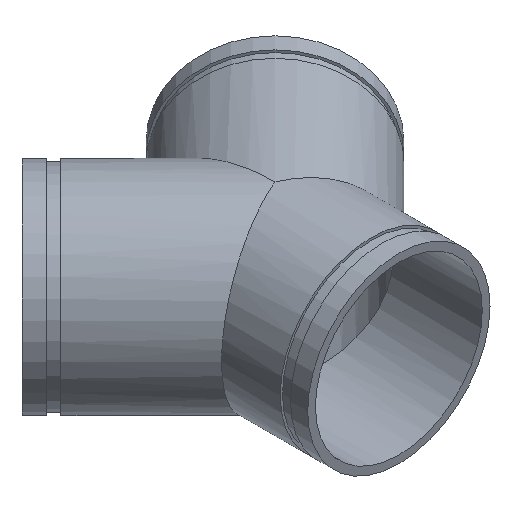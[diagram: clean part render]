
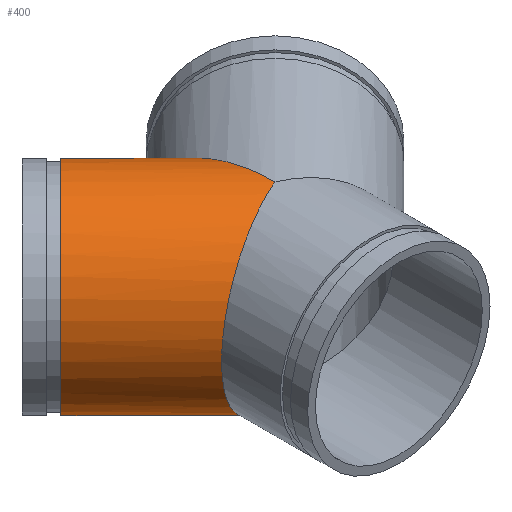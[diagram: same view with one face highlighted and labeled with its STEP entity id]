
A CAD part, isometric view. The second image highlights one B-rep face of the part: STEP entity #400.
In plain terms, the highlighted cylindrical face has radius 84.138 mm (diameter 168.275 mm), a full revolution.
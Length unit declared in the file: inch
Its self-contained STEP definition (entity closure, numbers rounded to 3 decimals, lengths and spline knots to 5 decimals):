
#76=FACE_OUTER_BOUND('',#103,.T.);
#103=EDGE_LOOP('',(#314,#315,#316,#317,#318,#319,#320,#321));
#118=ELLIPSE('',#470,4.68458,3.3125);
#119=ELLIPSE('',#471,3.58542,3.3125);
#120=ELLIPSE('',#472,3.58542,3.3125);
#121=ELLIPSE('',#473,4.68458,3.3125);
#131=LINE('',#735,#143);
#143=VECTOR('',#595,3.3125);
#156=CIRCLE('',#446,3.3125);
#157=CIRCLE('',#447,3.3125);
#186=VERTEX_POINT('',#686);
#187=VERTEX_POINT('',#687);
#202=VERTEX_POINT('',#730);
#203=VERTEX_POINT('',#731);
#204=VERTEX_POINT('',#733);
#205=VERTEX_POINT('',#736);
#223=EDGE_CURVE('',#186,#187,#156,.T.);
#224=EDGE_CURVE('',#187,#186,#157,.T.);
#243=EDGE_CURVE('',#202,#203,#118,.T.);
#244=EDGE_CURVE('',#204,#202,#119,.T.);
#245=EDGE_CURVE('',#204,#187,#131,.T.);
#246=EDGE_CURVE('',#205,#204,#120,.T.);
#247=EDGE_CURVE('',#203,#205,#121,.T.);
#314=ORIENTED_EDGE('',*,*,#243,.F.);
#315=ORIENTED_EDGE('',*,*,#244,.F.);
#316=ORIENTED_EDGE('',*,*,#245,.T.);
#317=ORIENTED_EDGE('',*,*,#224,.T.);
#318=ORIENTED_EDGE('',*,*,#223,.T.);
#319=ORIENTED_EDGE('',*,*,#245,.F.);
#320=ORIENTED_EDGE('',*,*,#246,.F.);
#321=ORIENTED_EDGE('',*,*,#247,.F.);
#359=CYLINDRICAL_SURFACE('',#469,3.3125);
#400=ADVANCED_FACE('',(#76),#359,.T.);
#446=AXIS2_PLACEMENT_3D('',#688,#539,#540);
#447=AXIS2_PLACEMENT_3D('',#689,#541,#542);
#469=AXIS2_PLACEMENT_3D('',#729,#589,#590);
#470=AXIS2_PLACEMENT_3D('',#732,#591,#592);
#471=AXIS2_PLACEMENT_3D('',#734,#593,#594);
#472=AXIS2_PLACEMENT_3D('',#737,#596,#597);
#473=AXIS2_PLACEMENT_3D('',#738,#598,#599);
#539=DIRECTION('center_axis',(0.707,-0.707,0.));
#540=DIRECTION('ref_axis',(0.707,0.707,0.));
#541=DIRECTION('center_axis',(0.707,-0.707,0.));
#542=DIRECTION('ref_axis',(0.707,0.707,0.));
#589=DIRECTION('center_axis',(0.707,-0.707,0.));
#590=DIRECTION('ref_axis',(0.707,0.707,0.));
#591=DIRECTION('center_axis',(1.,0.,0.));
#592=DIRECTION('ref_axis',(0.,1.,0.));
#593=DIRECTION('center_axis',(0.383,-0.924,0.));
#594=DIRECTION('ref_axis',(0.924,0.383,0.));
#595=DIRECTION('',(-0.707,0.707,0.));
#596=DIRECTION('center_axis',(0.383,-0.924,0.));
#597=DIRECTION('ref_axis',(0.924,0.383,0.));
#598=DIRECTION('center_axis',(1.,0.,0.));
#599=DIRECTION('ref_axis',(0.,1.,0.));
#686=CARTESIAN_POINT('',(-1.5468,6.23138,0.));
#687=CARTESIAN_POINT('',(-6.23138,1.5468,0.));
#688=CARTESIAN_POINT('Origin',(-3.88909,3.88909,0.));
#689=CARTESIAN_POINT('Origin',(-3.88909,3.88909,0.));
#729=CARTESIAN_POINT('Origin',(-4.59619,4.59619,0.));
#730=CARTESIAN_POINT('',(0.,0.,-3.3125));
#731=CARTESIAN_POINT('',(0.,4.68458,0.));
#732=CARTESIAN_POINT('Origin',(0.,0.,
0.));
#733=CARTESIAN_POINT('',(-3.3125,-1.37208,0.));
#734=CARTESIAN_POINT('Origin',(0.,0.,
0.));
#735=CARTESIAN_POINT('',(-6.93849,2.2539,0.));
#736=CARTESIAN_POINT('',(0.,0.,3.3125));
#737=CARTESIAN_POINT('Origin',(0.,0.,
0.));
#738=CARTESIAN_POINT('Origin',(0.,0.,
0.));
